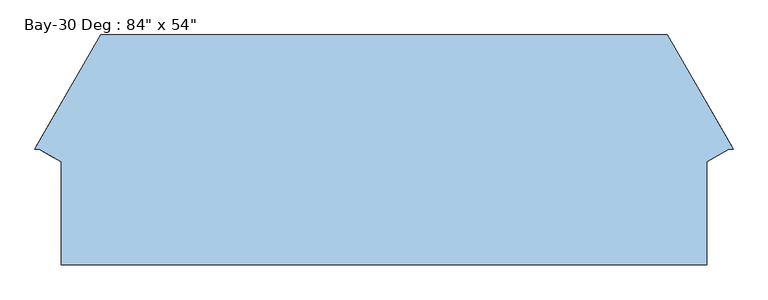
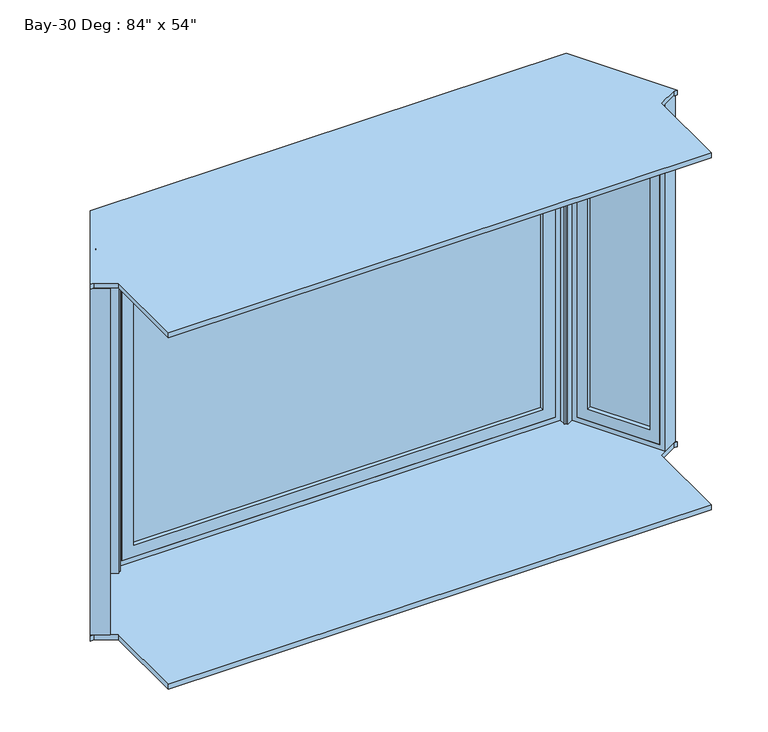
"""IFC4 building model written with IfcOpenShell, lengths in millimetres: window geometry."""

from ifc_helpers import new_model, si_unit, frame, origin, place, context, project, spatial, polyline, outline, extrude, faceted_brep, source, transform, mapped, element, save


def window_fb9100aa(model_context):
    return source(origin(), model_context, "Body", "SolidModel", [
        extrude(outline(polyline([(-887.2967258, 398.2513467), (-991.3328488, 213.0480242), (-1002.4671763, 219.3984341), (-898.2859818, 404.6017566), (-887.2967258, 398.2513467)])), frame((0.0, 0.0, 844.55), z_axis=(0.0, 0.0, 1.0), x_axis=(1.0, 0.0, 0.0)), (0.0, 0.0, 1.0), 1206.5),
        faceted_brep([(-999.4704504, 166.6434337, 800.1), (-1037.8348882, 188.7931522, 800.1), (-890.2349709, 451.2871422, 800.1), (-851.7455625, 429.0652719, 800.1), (-999.4704504, 166.6434337, 2095.5), (-1037.8348882, 188.7931522, 2095.5), (-890.2349709, 451.2871422, 2095.5), (-912.0225519, 412.539769, 2051.05), (-1016.2162171, 227.2401332, 2051.05), (-1016.2162171, 227.2401332, 844.55), (-912.0225519, 412.539769, 844.55), (-851.7455625, 429.0652719, 2095.5), (-977.7189028, 205.2833758, 2051.05), (-873.5601557, 390.3133342, 2051.05), (-873.5601557, 390.3133342, 844.55), (-977.7189028, 205.2833758, 844.55)], [[[0, 1, 2, 3]], [[4, 5, 1, 0]], [[5, 6, 2, 1], [7, 8, 9, 10]], [[6, 11, 3, 2]], [[11, 4, 0, 3], [12, 13, 14, 15]], [[13, 7, 10, 14]], [[9, 15, 14, 10]], [[8, 12, 15, 9]], [[4, 11, 6, 5]], [[7, 13, 12, 8]]]),
        extrude(outline(polyline([(881.2805271, 402.2073869), (892.2790497, 408.5573869), (1004.8421988, 213.5922935), (993.7831258, 207.3471699), (881.2805271, 402.2073869)])), frame((0.0, 0.0, 844.55), z_axis=(0.0, 0.0, 1.0), x_axis=(1.0, 0.0, 0.0)), (0.0, 0.0, 1.0), 1206.5),
        faceted_brep([(848.4823738, 427.2654548, 800.1), (886.977203, 449.4904548, 800.1), (1037.5479962, 188.6941908, 800.1), (998.8412405, 166.8362582, 800.1), (848.4823738, 427.2654548, 2095.5), (886.977203, 449.4904548, 2095.5), (1037.5479962, 188.6941908, 2095.5), (1018.6660402, 221.398698, 2051.05), (906.027203, 416.4948869, 2051.05), (906.027203, 416.4948869, 844.55), (1018.6660402, 221.398698, 844.55), (998.8412405, 166.8362582, 2095.5), (867.5323738, 394.2698869, 2051.05), (979.9592845, 199.5407654, 2051.05), (979.9592845, 199.5407654, 844.55), (867.5323738, 394.2698869, 844.55)], [[[0, 1, 2, 3]], [[4, 5, 1, 0]], [[5, 6, 2, 1], [7, 8, 9, 10]], [[6, 11, 3, 2]], [[11, 4, 0, 3], [12, 13, 14, 15]], [[13, 7, 10, 14]], [[14, 10, 9, 15]], [[8, 12, 15, 9]], [[4, 11, 6, 5]], [[12, 8, 7, 13]]]),
        faceted_brep([(-894.0594169, 475.4922324, 781.05), (-842.4001218, 445.6667245, 781.05), (-1008.599634, 150.4261453, 781.05), (-1063.7201827, 181.631166, 781.05), (-894.0594169, 475.4922324, 2114.55), (-842.4001218, 445.6667245, 2114.55), (-1008.599634, 150.4261453, 2114.55), (-999.4704504, 166.6434337, 2095.5), (-851.7455625, 429.0652719, 2095.5), (-851.7455625, 429.0652719, 800.1), (-999.4704504, 166.6434337, 800.1), (-1063.7201827, 181.631166, 2114.55), (-903.5844169, 458.9944485, 2095.5), (-1054.1476281, 198.211317, 2095.5), (-1054.1476281, 198.211317, 800.1), (-903.5844169, 458.9944485, 800.1)], [[[0, 1, 2, 3]], [[4, 5, 1, 0]], [[5, 6, 2, 1], [7, 8, 9, 10]], [[6, 11, 3, 2]], [[11, 4, 0, 3], [12, 13, 14, 15]], [[13, 7, 10, 14]], [[14, 10, 9, 15]], [[8, 12, 15, 9]], [[4, 11, 6, 5]], [[12, 8, 7, 13]]]),
        faceted_brep([(1063.6562069, 181.5734434, 781.05), (1008.3948745, 150.2888788, 781.05), (838.9573738, 443.7632387, 781.05), (893.9499869, 475.5132387, 781.05), (1063.6562069, 181.5734434, 2114.55), (1008.3948745, 150.2888788, 2114.55), (838.9573738, 443.7632387, 2114.55), (848.4823738, 427.2654548, 2095.5), (998.8412405, 166.8362582, 2095.5), (998.8412405, 166.8362582, 800.1), (848.4823738, 427.2654548, 800.1), (893.9499869, 475.5132387, 2114.55), (1054.1366058, 198.0618762, 2095.5), (903.4749869, 459.0154548, 2095.5), (903.4749869, 459.0154548, 800.1), (1054.1366058, 198.0618762, 800.1)], [[[0, 1, 2, 3]], [[4, 5, 1, 0]], [[5, 6, 2, 1], [7, 8, 9, 10]], [[6, 11, 3, 2]], [[11, 4, 0, 3], [12, 13, 14, 15]], [[9, 15, 14, 10]], [[13, 7, 10, 14]], [[8, 12, 15, 9]], [[4, 11, 6, 5]], [[7, 13, 12, 8]]]),
        extrude(outline(polyline([(743.9353284, 476.8453125), (-744.03263, 476.8453125), (-744.03263, 489.6227448), (743.9353284, 489.6227448), (743.9353284, 476.8453125)])), frame((0.0, 0.0, 844.55), z_axis=(0.0, 0.0, 1.0), x_axis=(1.0, 0.0, 0.0)), (0.0, 0.0, 1.0), 1206.5),
        extrude(outline(polyline([(2095.5, -788.48263), (800.1, -788.48263), (800.1, 788.3853284), (2095.5, 788.3853284), (2095.5, -788.48263)]), holes=[polyline([(2051.05, -744.03263), (2051.05, 743.9353284), (844.55, 743.9353284), (844.55, -744.03263), (2051.05, -744.03263)])]), frame((0.0, 461.9625, 0.0), z_axis=(0.0, 1.0, 0.0), x_axis=(0.0, 0.0, 1.0)), (0.0, 0.0, 1.0), 44.45),
        extrude(outline(polyline([(2114.55, -807.53263), (781.05, -807.53263), (781.05, 807.4353284), (2114.55, 807.4353284), (2114.55, -807.53263)]), holes=[polyline([(2095.5, -788.48263), (2095.5, 788.3853284), (800.1, 788.3853284), (800.1, -788.48263), (2095.5, -788.48263)])]), frame((0.0, 461.9625, 0.0), z_axis=(0.0, 1.0, 0.0), x_axis=(0.0, 0.0, 1.0)), (0.0, 0.0, 1.0), 63.5),
        extrude(outline(polyline([(-807.5326299, 525.4625), (-807.5326299, 436.5625), (-813.8826299, 436.5625), (-817.0697581, 431.0422321), (-894.0594169, 475.4922324), (-865.2090695, 525.4625), (-807.5326299, 525.4625)])), frame((0.0, 0.0, 781.05), z_axis=(0.0, 0.0, 1.0), x_axis=(1.0, 0.0, 0.0)), (0.0, 0.0, 1.0), 1333.5),
        extrude(outline(polyline([(893.9499869, 475.5132387), (816.9603284, 431.0632387), (813.7853284, 436.5625), (807.4353284, 436.5625), (807.4353284, 525.4625), (865.1117675, 525.4625), (893.9499869, 475.5132387)])), frame((0.0, 0.0, 781.05), z_axis=(0.0, 0.0, 1.0), x_axis=(1.0, 0.0, 0.0)), (0.0, 0.0, 1.0), 1333.5),
        extrude(outline(polyline([(-986.848811, -176.2125), (-986.848811, 138.1125), (-1054.148651, 176.2125), (-1066.848651, 176.2125), (-865.2090695, 525.4625), (865.1117675, 525.4625), (1066.751349, 176.2125), (1054.1865889, 176.2125), (986.751509, 138.0361292), (986.751509, -176.2125), (-986.848811, -176.2125)])), frame((0.0, 0.0, 762.0), z_axis=(0.0, 0.0, 1.0), x_axis=(1.0, 0.0, 0.0)), (0.0, 0.0, 1.0), 19.05),
        extrude(outline(polyline([(-986.848811, -176.2125), (-986.848811, 138.1125), (-1054.148651, 176.2125), (-1066.848651, 176.2125), (-865.2090695, 525.4625), (865.1117675, 525.4625), (1066.751349, 176.2125), (1054.1865889, 176.2125), (986.751509, 138.0361292), (986.751509, -176.2125), (-986.848811, -176.2125)])), frame((0.0, 0.0, 2114.55), z_axis=(0.0, 0.0, 1.0), x_axis=(1.0, 0.0, 0.0)), (0.0, 0.0, 1.0), 19.05),
    ])


if __name__ == "__main__":
    model = new_model("IFC4")
    model_context = context("Model", 3, world=origin())
    ifc_project = project(units=[si_unit("LENGTHUNIT", "METRE", prefix="MILLI")], contexts=[model_context])
    site = spatial("IfcSite", under=ifc_project)
    building = spatial("IfcBuilding", under=site)
    placement = place(None, origin())
    window_shape = window_fb9100aa(model_context)
    element("IfcWindow", 1, ObjectType="Bay-30 Deg : 84\" x 54\"", at=placement, inside=building, context=model_context, shape_type="MappedRepresentation", body=[
        mapped(window_shape, transform((0.0, 0.0, 0.0), x_axis=(1.0, 0.0, 0.0), y_axis=(0.0, 1.0, 0.0), z_axis=(0.0, 0.0, 1.0))),
    ])
    save(model, "model.ifc")
